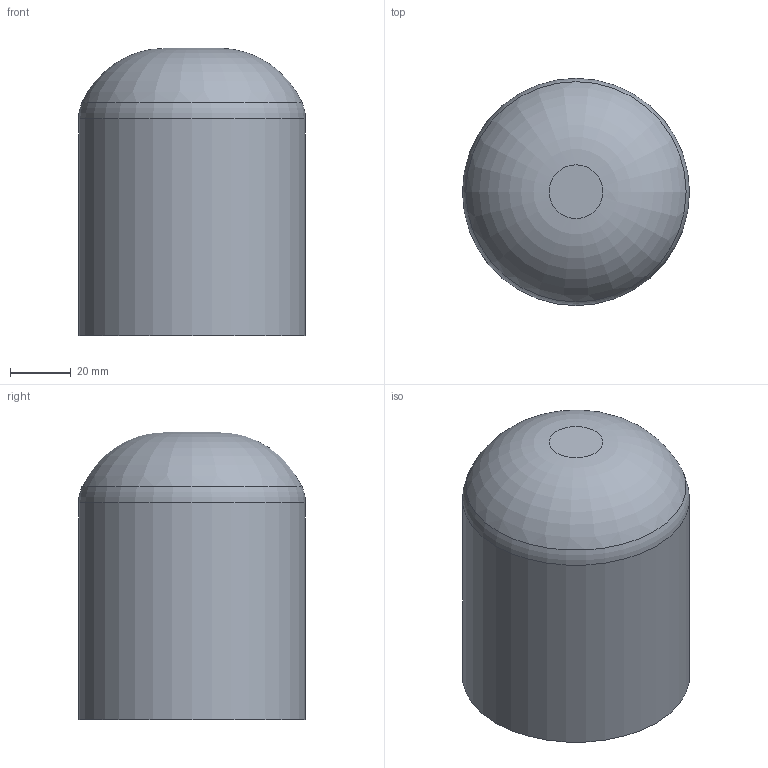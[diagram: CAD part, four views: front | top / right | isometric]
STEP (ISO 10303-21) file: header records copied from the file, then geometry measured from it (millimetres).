
FILE_DESCRIPTION(/* description */ ('Unknown'),/* implementation_level */ '2;1');
FILE_NAME(/* name */ 'CAP075B',/* time_stamp */ '2022-04-01T17:46:00+02:00',/* author */ ('Unknown'),/* organization */ ('Unknown'),/* preprocessor_version */ 'ST-DEVELOPER v18.1',/* originating_system */ 'Solid Edge',/* authorisation */ 'Unknown');
FILE_SCHEMA (('AUTOMOTIVE_DESIGN {1 0 10303 214 3 1 1}'));
Length unit declared in the file: millimetre
Products named in the file (1): CAP075B
Bounding box: 75 x 75 x 95 mm (x, y, z)
Volume: 103604 mm3; surface area: 46160.7 mm2
Topology: 1 solids, 1 shells, 116 faces, 279 edges, 166 vertices
Faces by surface type: bspline 90, torus 15, plane 9, cylinder 2
Full cylindrical faces by diameter (mm): 66 x1, 75 x1
Entity records: 5052 total; most frequent: CARTESIAN_POINT 3039, ORIENTED_EDGE 540, EDGE_CURVE 270, DIRECTION 234, B_SPLINE_CURVE_WITH_KNOTS 180, VERTEX_POINT 162, EDGE_LOOP 122, FACE_BOUND 122
